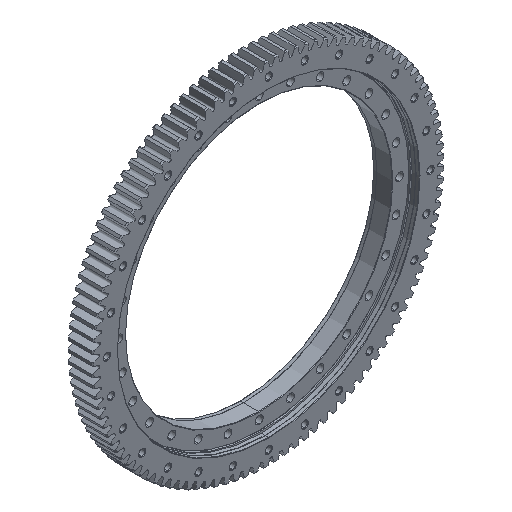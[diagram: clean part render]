
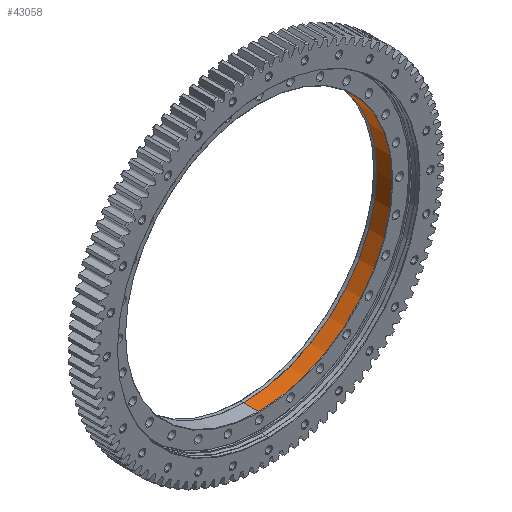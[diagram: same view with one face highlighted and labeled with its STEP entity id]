
A CAD part, isometric view. The second image highlights one B-rep face of the part: STEP entity #43058.
In plain terms, the highlighted cylindrical face has radius 377.5 mm (diameter 755 mm), a partial arc.
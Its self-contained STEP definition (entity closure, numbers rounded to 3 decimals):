
#411 = ORIENTED_EDGE ( 'NONE', *, *, #33875, .F. ) ;
#1033 = VERTEX_POINT ( 'NONE', #16375 ) ;
#3367 = CIRCLE ( 'NONE', #43338, 377.5 ) ;
#3474 = CARTESIAN_POINT ( 'NONE',  ( 0., 0., 377.5 ) ) ;
#6932 = CIRCLE ( 'NONE', #25192, 377.5 ) ;
#7365 = DIRECTION ( 'NONE',  ( 0., -1., 0. ) ) ;
#7674 = CARTESIAN_POINT ( 'NONE',  ( 0., 28., 0. ) ) ;
#8178 = VERTEX_POINT ( 'NONE', #51697 ) ;
#9306 = CARTESIAN_POINT ( 'NONE',  ( 0., 0., -377.5 ) ) ;
#11918 = DIRECTION ( 'NONE',  ( 0., -1., 0. ) ) ;
#12472 = FACE_OUTER_BOUND ( 'NONE', #51196, .T. ) ;
#12678 = LINE ( 'NONE', #9306, #12965 ) ;
#12965 = VECTOR ( 'NONE', #42444, 1000. ) ;
#14812 = ORIENTED_EDGE ( 'NONE', *, *, #29650, .T. ) ;
#15648 = VERTEX_POINT ( 'NONE', #31745 ) ;
#16375 = CARTESIAN_POINT ( 'NONE',  ( 0., 28., 377.5 ) ) ;
#17498 = CARTESIAN_POINT ( 'NONE',  ( 0., 71., 0. ) ) ;
#20212 = DIRECTION ( 'NONE',  ( 0., -1., 0. ) ) ;
#25192 = AXIS2_PLACEMENT_3D ( 'NONE', #17498, #38935, #26050 ) ;
#25437 = VECTOR ( 'NONE', #20212, 1000. ) ;
#26050 = DIRECTION ( 'NONE',  ( 0., 0., -1. ) ) ;
#26468 = ORIENTED_EDGE ( 'NONE', *, *, #55052, .T. ) ;
#28337 = DIRECTION ( 'NONE',  ( 0., 0., -1. ) ) ;
#29650 = EDGE_CURVE ( 'NONE', #15648, #8178, #12678, .T. ) ;
#30031 = CYLINDRICAL_SURFACE ( 'NONE', #34337, 377.5 ) ;
#31745 = CARTESIAN_POINT ( 'NONE',  ( 0., 71., -377.5 ) ) ;
#33875 = EDGE_CURVE ( 'NONE', #15648, #45814, #6932, .T. ) ;
#34337 = AXIS2_PLACEMENT_3D ( 'NONE', #45503, #7365, #49758 ) ;
#38935 = DIRECTION ( 'NONE',  ( 0., -1., 0. ) ) ;
#39464 = CARTESIAN_POINT ( 'NONE',  ( 0., 71., 377.5 ) ) ;
#42444 = DIRECTION ( 'NONE',  ( 0., -1., 0. ) ) ;
#42770 = LINE ( 'NONE', #3474, #25437 ) ;
#43058 = ADVANCED_FACE ( 'NONE', ( #12472 ), #30031, .F. ) ;
#43338 = AXIS2_PLACEMENT_3D ( 'NONE', #7674, #11918, #28337 ) ;
#45503 = CARTESIAN_POINT ( 'NONE',  ( 0., 0., 0. ) ) ;
#45814 = VERTEX_POINT ( 'NONE', #39464 ) ;
#49257 = EDGE_CURVE ( 'NONE', #45814, #1033, #42770, .T. ) ;
#49758 = DIRECTION ( 'NONE',  ( 0., 0., -1. ) ) ;
#51196 = EDGE_LOOP ( 'NONE', ( #53872, #411, #14812, #26468 ) ) ;
#51697 = CARTESIAN_POINT ( 'NONE',  ( 0., 28., -377.5 ) ) ;
#53872 = ORIENTED_EDGE ( 'NONE', *, *, #49257, .F. ) ;
#55052 = EDGE_CURVE ( 'NONE', #8178, #1033, #3367, .T. ) ;
